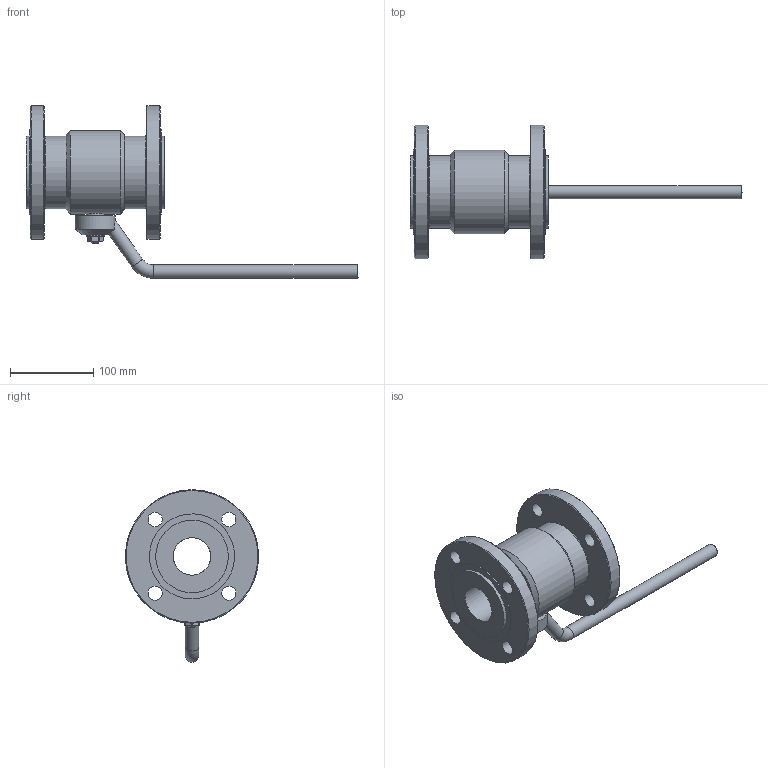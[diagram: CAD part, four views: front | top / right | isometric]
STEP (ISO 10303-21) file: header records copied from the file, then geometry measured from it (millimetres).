
FILE_DESCRIPTION(('STEP AP203'), '1');
FILE_NAME('ZARD 050.025.22.P.stp', '2013-12-06T07:38:01', ('1'), ('1'), 'ASCON STEP Converter 1.3', 'Kompas 3D', '');
FILE_SCHEMA(('CONFIG_CONTROL_DESIGN','SUPPORT_RESOURCE_SCHEMA'));
Length unit declared in the file: millimetre
Products named in the file (1): 164
Bounding box: 398.01 x 160 x 207 mm (x, y, z)
Volume: 1308060.8 mm3; surface area: 183603.8 mm2
Topology: 1 solids, 8 shells, 170 faces, 373 edges, 235 vertices
Faces by surface type: plane 78, cylinder 61, cone 21, torus 10
Full cylindrical faces by diameter (mm): 6 x2, 10 x2, 16 x3, 17 x8, 21.8 x1, 22 x2, 45 x2, 48 x1, 73.4 x1, 87 x4, 100 x1, 102 x2, 160 x2
Entity records: 6383 total; most frequent: CARTESIAN_POINT 2465, DIRECTION 832, ORIENTED_EDGE 746, EDGE_CURVE 373, AXIS2_PLACEMENT_3D 332, VERTEX_POINT 235, EDGE_LOOP 210, ADVANCED_FACE 170
